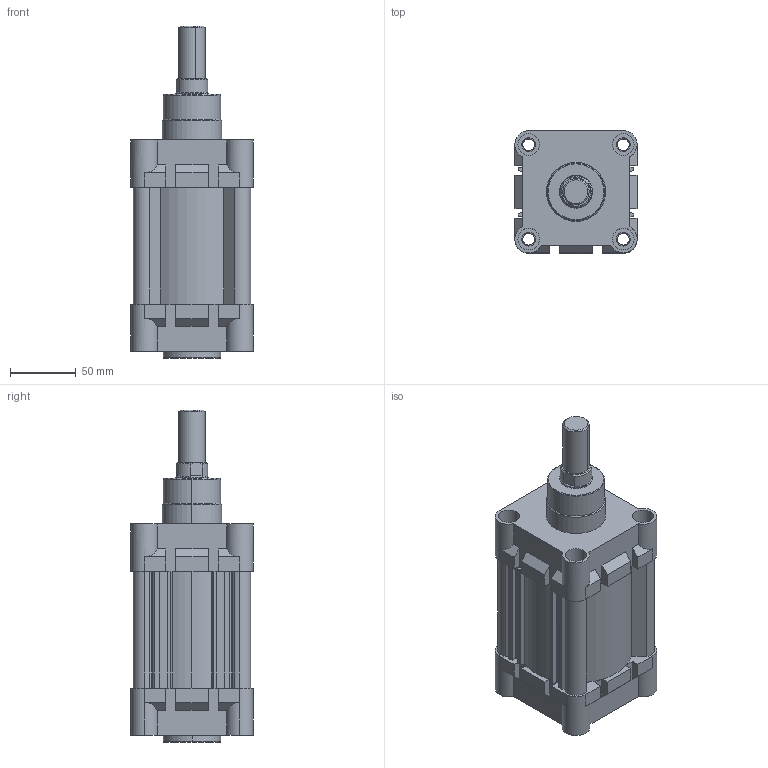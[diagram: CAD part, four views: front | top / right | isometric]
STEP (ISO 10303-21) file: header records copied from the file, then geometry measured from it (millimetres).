
FILE_DESCRIPTION (( 'STEP AP214' ), '1' );
FILE_NAME ('RIC_80_50_WEB.STEP', '2020-09-23T07:56:39', ( '' ), ( '' ), 'SwSTEP 2.0', 'SolidWorks 2018', '' );
FILE_SCHEMA (( 'AUTOMOTIVE_DESIGN' ));
Length unit declared in the file: millimetre
Products named in the file (5): RIC_80_50_WEB; RIC_80_BORU_WEB; RIC_80_ARKA_KAPAK_WEB; RIC_80_MIL_WEB; RIC_80_ONKAPAK_WEB
Assembly tree (4 placements, depth 2):
  RIC_80_50_WEB
    RIC_80_ARKA_KAPAK_WEB
    RIC_80_BORU_WEB
    RIC_80_ONKAPAK_WEB
    RIC_80_MIL_WEB
Bounding box: 93 x 93 x 252.6 mm (x, y, z)
Volume: 742536.9 mm3; surface area: 183041.2 mm2
Topology: 4 solids, 4 shells, 468 faces, 1241 edges, 819 vertices
Faces by surface type: plane 246, cylinder 161, bspline 44, cone 11, torus 6
Entity records: 19109 total; most frequent: CARTESIAN_POINT 5717, ORIENTED_EDGE 2482, DIRECTION 2302, EDGE_CURVE 1241, VERTEX_POINT 819, VECTOR 790, LINE 790, AXIS2_PLACEMENT_3D 756
